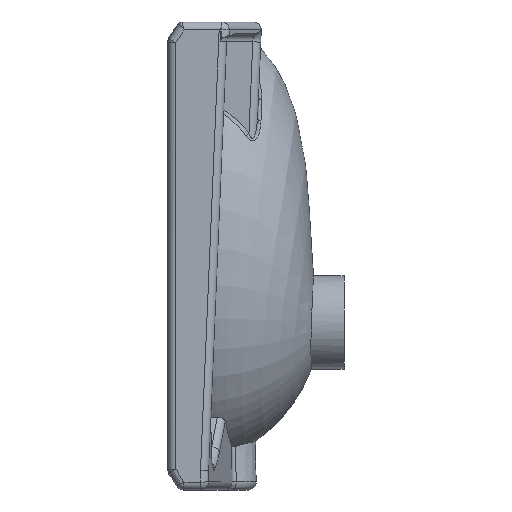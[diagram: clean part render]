
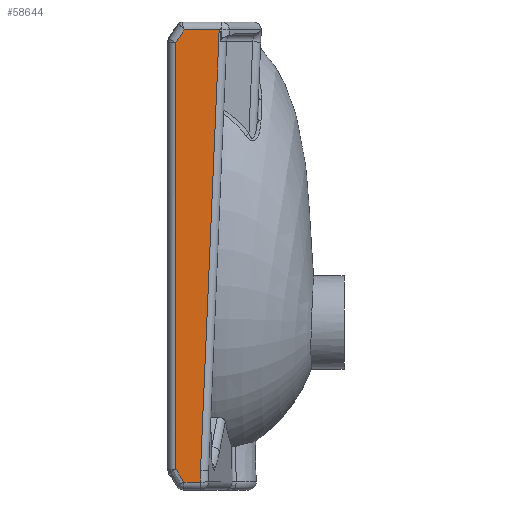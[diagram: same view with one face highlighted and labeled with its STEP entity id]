
A CAD part, left-side view. The second image highlights one B-rep face of the part: STEP entity #58644.
In plain terms, the highlighted planar face has unit normal (-1, 0, 0).
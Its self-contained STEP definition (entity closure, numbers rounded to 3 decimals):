
#458 = CARTESIAN_POINT ( 'NONE',  ( -9645.669, 3132.168, 11220.472 ) ) ;
#2613 = EDGE_CURVE ( 'NONE', #12266, #32080, #89096, .T. ) ;
#3508 = CARTESIAN_POINT ( 'NONE',  ( -9645.669, 3252.54, 11034.351 ) ) ;
#4278 = EDGE_CURVE ( 'NONE', #15304, #23218, #24337, .T. ) ;
#5816 = ORIENTED_EDGE ( 'NONE', *, *, #63778, .F. ) ;
#7864 = CARTESIAN_POINT ( 'NONE',  ( -9645.669, 3456.882, -10711.623 ) ) ;
#8987 = CARTESIAN_POINT ( 'NONE',  ( -9645.669, 3543.307, 10585.209 ) ) ;
#9423 = CARTESIAN_POINT ( 'NONE',  ( -9645.669, 3516.85, 10626.05 ) ) ;
#12266 = VERTEX_POINT ( 'NONE', #72864 ) ;
#13451 = CARTESIAN_POINT ( 'NONE',  ( -9645.669, 3937.008, -11220.472 ) ) ;
#15126 = CARTESIAN_POINT ( 'NONE',  ( -9645.669, 3199.294, -11133.391 ) ) ;
#15304 = VERTEX_POINT ( 'NONE', #458 ) ;
#17526 = CARTESIAN_POINT ( 'NONE',  ( -9645.669, 1382.892, 11505.948 ) ) ;
#17600 = VERTEX_POINT ( 'NONE', #67786 ) ;
#18911 = DIRECTION ( 'NONE',  ( 0., 1., 0. ) ) ;
#21301 = VECTOR ( 'NONE', #47473, 39370.079 ) ;
#21928 = CARTESIAN_POINT ( 'NONE',  ( -9645.669, 3485.685, -10664.494 ) ) ;
#22359 = CARTESIAN_POINT ( 'NONE',  ( -9645.669, 3543.307, -10570.247 ) ) ;
#23218 = VERTEX_POINT ( 'NONE', #77345 ) ;
#23920 = CARTESIAN_POINT ( 'NONE',  ( -9645.669, 3413.535, 10785.588 ) ) ;
#24337 = LINE ( 'NONE', #58346, #64867 ) ;
#24388 = LINE ( 'NONE', #47940, #21301 ) ;
#24940 = VECTOR ( 'NONE', #18911, 39370.079 ) ;
#25646 = PLANE ( 'NONE',  #41693 ) ;
#26378 = EDGE_CURVE ( 'NONE', #72640, #12266, #39758, .T. ) ;
#27035 = CARTESIAN_POINT ( 'NONE',  ( -9645.669, 3543.307, -10570.247 ) ) ;
#27367 = CARTESIAN_POINT ( 'NONE',  ( -9645.669, 3514.493, -10617.369 ) ) ;
#27718 = ORIENTED_EDGE ( 'NONE', *, *, #52477, .F. ) ;
#29604 = VECTOR ( 'NONE', #60143, 39370.079 ) ;
#29851 = CARTESIAN_POINT ( 'NONE',  ( -9645.669, 3463.946, 10707.74 ) ) ;
#32032 = DIRECTION ( 'NONE',  ( 0., 1., 0. ) ) ;
#32080 = VERTEX_POINT ( 'NONE', #27035 ) ;
#32475 = CARTESIAN_POINT ( 'NONE',  ( -9645.669, 3937.008, 11614.173 ) ) ;
#34810 = EDGE_LOOP ( 'NONE', ( #75680, #88513, #5816, #27718, #79379, #69446, #64141 ) ) ;
#37068 = EDGE_CURVE ( 'NONE', #17600, #72640, #72394, .T. ) ;
#37102 = CARTESIAN_POINT ( 'NONE',  ( -9645.669, 3363.137, 10863.443 ) ) ;
#37525 = DIRECTION ( 'NONE',  ( 0., -1., 0. ) ) ;
#39758 = LINE ( 'NONE', #13451, #24940 ) ;
#39874 = CARTESIAN_POINT ( 'NONE',  ( -9645.669, 3543.307, 10585.209 ) ) ;
#40964 = CARTESIAN_POINT ( 'NONE',  ( -9645.669, 3305.603, -10959.259 ) ) ;
#41693 = AXIS2_PLACEMENT_3D ( 'NONE', #32475, #66876, #32032 ) ;
#44914 = VECTOR ( 'NONE', #72360, 39370.079 ) ;
#45226 = CARTESIAN_POINT ( 'NONE',  ( -9645.669, 2308.017, -11445.58 ) ) ;
#45623 = LINE ( 'NONE', #17526, #44914 ) ;
#47473 = DIRECTION ( 'NONE',  ( 0., 0., 1. ) ) ;
#47940 = CARTESIAN_POINT ( 'NONE',  ( -9645.669, 3543.307, 11614.173 ) ) ;
#51147 = CARTESIAN_POINT ( 'NONE',  ( -9645.669, 3132.168, 11220.472 ) ) ;
#52477 = EDGE_CURVE ( 'NONE', #32080, #82871, #24388, .T. ) ;
#57928 = CARTESIAN_POINT ( 'NONE',  ( -9645.669, 3312.751, 10941.307 ) ) ;
#58346 = CARTESIAN_POINT ( 'NONE',  ( -9645.669, 3937.008, 11220.472 ) ) ;
#58644 = ADVANCED_FACE ( 'NONE', ( #60993 ), #25646, .F. ) ;
#60143 = DIRECTION ( 'NONE',  ( 0., -0.018, -1. ) ) ;
#60993 = FACE_OUTER_BOUND ( 'NONE', #34810, .T. ) ;
#63155 = CARTESIAN_POINT ( 'NONE',  ( -9645.669, 3252.44, -11046.32 ) ) ;
#63778 = EDGE_CURVE ( 'NONE', #82871, #15304, #84517, .T. ) ;
#64141 = ORIENTED_EDGE ( 'NONE', *, *, #37068, .F. ) ;
#64867 = VECTOR ( 'NONE', #37525, 39370.079 ) ;
#65594 = CARTESIAN_POINT ( 'NONE',  ( -9645.669, 3490.396, 10666.894 ) ) ;
#66876 = DIRECTION ( 'NONE',  ( 1., 0., 0. ) ) ;
#67786 = CARTESIAN_POINT ( 'NONE',  ( -9645.669, 2321.966, -10656.203 ) ) ;
#68573 = CARTESIAN_POINT ( 'NONE',  ( -9645.669, 3406.44, -10794.159 ) ) ;
#69446 = ORIENTED_EDGE ( 'NONE', *, *, #26378, .F. ) ;
#72360 = DIRECTION ( 'NONE',  ( 0., 0.042, -0.999 ) ) ;
#72394 = LINE ( 'NONE', #45226, #29604 ) ;
#72640 = VERTEX_POINT ( 'NONE', #83983 ) ;
#72864 = CARTESIAN_POINT ( 'NONE',  ( -9645.669, 3146.164, -11220.472 ) ) ;
#75680 = ORIENTED_EDGE ( 'NONE', *, *, #84799, .F. ) ;
#76759 = CARTESIAN_POINT ( 'NONE',  ( -9645.669, 3356.014, -10876.704 ) ) ;
#77345 = CARTESIAN_POINT ( 'NONE',  ( -9645.669, 1394.988, 11220.472 ) ) ;
#79379 = ORIENTED_EDGE ( 'NONE', *, *, #2613, .F. ) ;
#82871 = VERTEX_POINT ( 'NONE', #39874 ) ;
#83983 = CARTESIAN_POINT ( 'NONE',  ( -9645.669, 2311.995, -11220.472 ) ) ;
#84033 = CARTESIAN_POINT ( 'NONE',  ( -9645.669, 3146.164, -11220.472 ) ) ;
#84517 = B_SPLINE_CURVE_WITH_KNOTS ( 'NONE', 3,
 ( #8987, #9423, #65594, #29851, #23920, #37102, #57928, #3508, #85592, #51147 ),
 .UNSPECIFIED., .F., .F.,
 ( 4, 3, 3, 4 ),
 ( 0., 0.004, 0.011, 0.019 ),
 .UNSPECIFIED. ) ;
#84799 = EDGE_CURVE ( 'NONE', #23218, #17600, #45623, .T. ) ;
#85592 = CARTESIAN_POINT ( 'NONE',  ( -9645.669, 3192.346, 11127.407 ) ) ;
#88513 = ORIENTED_EDGE ( 'NONE', *, *, #4278, .F. ) ;
#89096 = B_SPLINE_CURVE_WITH_KNOTS ( 'NONE', 3,
 ( #84033, #15126, #63155, #40964, #76759, #68573, #7864, #21928, #27367, #22359 ),
 .UNSPECIFIED., .F., .F.,
 ( 4, 3, 3, 4 ),
 ( 0.012, 0.019, 0.027, 0.031 ),
 .UNSPECIFIED. ) ;
